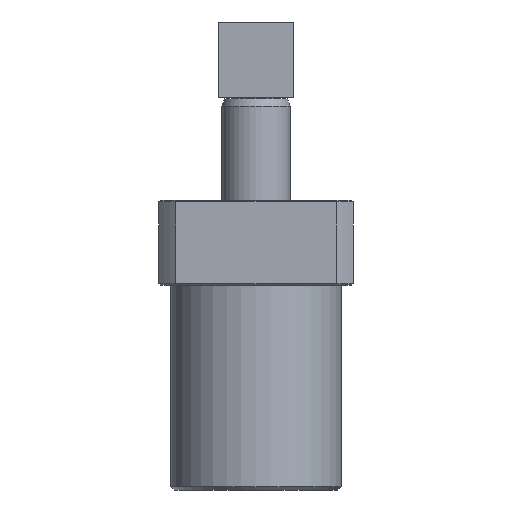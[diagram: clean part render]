
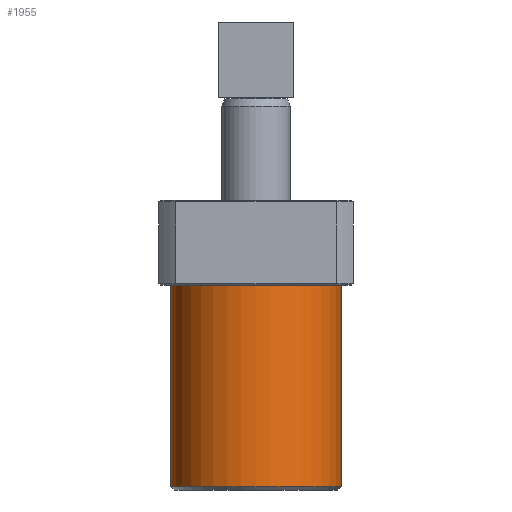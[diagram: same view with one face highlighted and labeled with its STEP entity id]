
A CAD part, front view. The second image highlights one B-rep face of the part: STEP entity #1955.
In plain terms, the highlighted cylindrical face has radius 25 mm (diameter 50 mm), a full revolution.
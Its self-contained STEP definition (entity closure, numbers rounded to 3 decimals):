
#259=CYLINDRICAL_SURFACE('',#2136,25.);
#444=ORIENTED_EDGE('',*,*,#741,.T.);
#445=ORIENTED_EDGE('',*,*,#739,.T.);
#739=EDGE_CURVE('',#906,#906,#1023,.T.);
#741=EDGE_CURVE('',#908,#908,#1025,.T.);
#906=VERTEX_POINT('',#2936);
#908=VERTEX_POINT('',#2942);
#1023=CIRCLE('',#2133,25.);
#1025=CIRCLE('',#2137,25.);
#1153=EDGE_LOOP('',(#444));
#1154=EDGE_LOOP('',(#445));
#1331=FACE_BOUND('',#1153,.T.);
#1332=FACE_BOUND('',#1154,.T.);
#1955=ADVANCED_FACE('',(#1331,#1332),#259,.T.);
#2133=AXIS2_PLACEMENT_3D('',#2935,#2452,#2453);
#2136=AXIS2_PLACEMENT_3D('',#2940,#2458,#2459);
#2137=AXIS2_PLACEMENT_3D('',#2941,#2460,#2461);
#2452=DIRECTION('',(0.,0.,-1.));
#2453=DIRECTION('',(0.,1.,0.));
#2458=DIRECTION('',(0.,0.,1.));
#2459=DIRECTION('',(0.,-1.,0.));
#2460=DIRECTION('',(0.,0.,1.));
#2461=DIRECTION('',(1.,0.,0.));
#2935=CARTESIAN_POINT('',(0.,30.5,-8.6));
#2936=CARTESIAN_POINT('',(0.,55.5,-8.6));
#2940=CARTESIAN_POINT('',(0.,30.5,-68.6));
#2941=CARTESIAN_POINT('',(0.,30.5,-67.6));
#2942=CARTESIAN_POINT('',(25.,30.5,-67.6));
